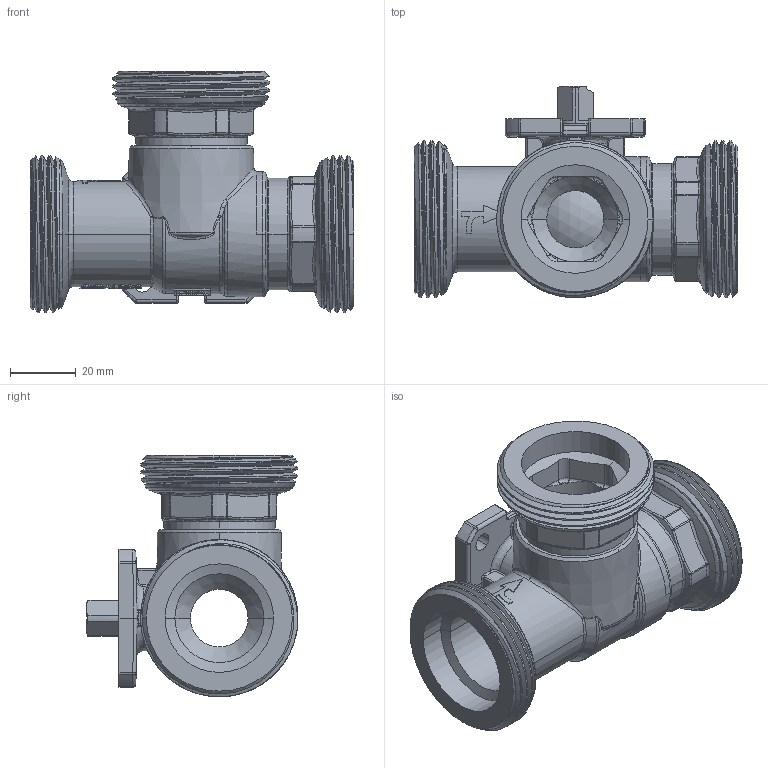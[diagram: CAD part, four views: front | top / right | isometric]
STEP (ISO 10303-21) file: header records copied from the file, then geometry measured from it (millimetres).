
FILE_DESCRIPTION((''),'2;1');
FILE_NAME('H988FT025_2346_SW0001','2015-05-11T',('64ciro'),('Vir spa'),'PRO/ENGINEER BY PARAMETRIC TECHNOLOGY CORPORATION, 2010280','PRO/ENGINEER BY PARAMETRIC TECHNOLOGY CORPORATION, 2010280','');
FILE_SCHEMA(('CONFIG_CONTROL_DESIGN'));
Products named in the file (1): H988FT025_2346_SW0001
Bounding box: 98.4 x 64.4 x 73.39 mm (x, y, z)
Volume: 91867.5 mm3; surface area: 48316.2 mm2
Topology: 1 solids, 1 shells, 1107 faces, 2757 edges, 1702 vertices
Faces by surface type: cylinder 292, plane 234, bspline 200, extrusion 179, torus 104, cone 86, sphere 12
Entity records: 49278 total; most frequent: CARTESIAN_POINT 25008, ORIENTED_EDGE 5514, DIRECTION 4264, EDGE_CURVE 2757, VERTEX_POINT 1702, AXIS2_PLACEMENT_3D 1602, B_SPLINE_CURVE_WITH_KNOTS 1181, EDGE_LOOP 1177
